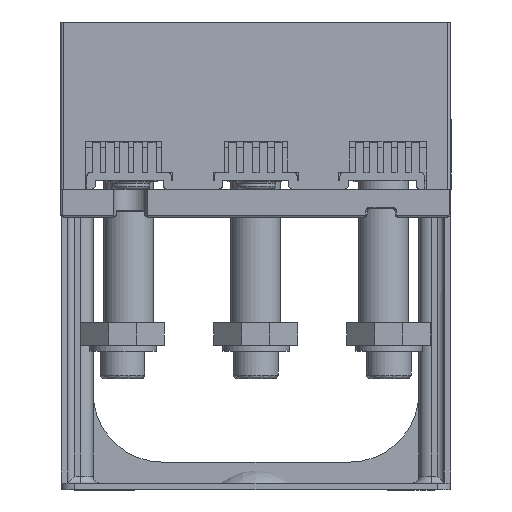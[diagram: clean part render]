
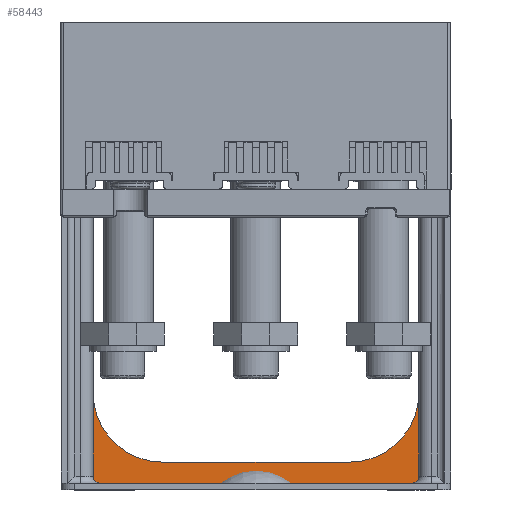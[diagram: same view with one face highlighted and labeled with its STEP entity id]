
A CAD part, front view. The second image highlights one B-rep face of the part: STEP entity #58443.
In plain terms, the highlighted planar face has unit normal (0, -1, 0).
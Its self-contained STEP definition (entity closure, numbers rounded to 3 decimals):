
#1909 = EDGE_CURVE ( 'NONE', #82494, #14823, #43096, .T. ) ;
#2968 = AXIS2_PLACEMENT_3D ( 'NONE', #26546, #27007, #122169 ) ;
#3411 = CARTESIAN_POINT ( 'NONE',  ( 22.522, 226.181, 323.748 ) ) ;
#4187 = CARTESIAN_POINT ( 'NONE',  ( 47.522, 226.181, 348.748 ) ) ;
#4484 = VERTEX_POINT ( 'NONE', #71699 ) ;
#4690 = ORIENTED_EDGE ( 'NONE', *, *, #114144, .F. ) ;
#5545 = EDGE_CURVE ( 'NONE', #36206, #137291, #107662, .T. ) ;
#6021 = ORIENTED_EDGE ( 'NONE', *, *, #53274, .F. ) ;
#6084 = FACE_OUTER_BOUND ( 'NONE', #54168, .T. ) ;
#7664 = VERTEX_POINT ( 'NONE', #130447 ) ;
#7715 = ORIENTED_EDGE ( 'NONE', *, *, #127202, .T. ) ;
#10980 = ORIENTED_EDGE ( 'NONE', *, *, #77903, .F. ) ;
#11683 = DIRECTION ( 'NONE',  ( 0., -1., 0. ) ) ;
#12442 = ORIENTED_EDGE ( 'NONE', *, *, #5545, .F. ) ;
#13349 = DIRECTION ( 'NONE',  ( 0., 0., 1. ) ) ;
#14520 = DIRECTION ( 'NONE',  ( 0., 0., 1. ) ) ;
#14811 = ORIENTED_EDGE ( 'NONE', *, *, #128020, .F. ) ;
#14823 = VERTEX_POINT ( 'NONE', #103293 ) ;
#14843 = VERTEX_POINT ( 'NONE', #28757 ) ;
#16103 = ORIENTED_EDGE ( 'NONE', *, *, #90730, .T. ) ;
#17538 = CARTESIAN_POINT ( 'NONE',  ( 56.522, 226.181, 318.748 ) ) ;
#18303 = CARTESIAN_POINT ( 'NONE',  ( -78.478, 226.181, 421.748 ) ) ;
#19679 = CARTESIAN_POINT ( 'NONE',  ( -69.478, 226.181, 416.748 ) ) ;
#19873 = CARTESIAN_POINT ( 'NONE',  ( -75.978, 226.181, 318.748 ) ) ;
#26546 = CARTESIAN_POINT ( 'NONE',  ( 54.022, 226.181, 318.748 ) ) ;
#27007 = DIRECTION ( 'NONE',  ( 0., 1., 0. ) ) ;
#27153 = LINE ( 'NONE', #77571, #28862 ) ;
#27326 = DIRECTION ( 'NONE',  ( -1., 0., 0. ) ) ;
#28375 = AXIS2_PLACEMENT_3D ( 'NONE', #107660, #43466, #97299 ) ;
#28757 = CARTESIAN_POINT ( 'NONE',  ( 47.522, 226.181, 416.748 ) ) ;
#28862 = VECTOR ( 'NONE', #13349, 1000. ) ;
#30763 = CARTESIAN_POINT ( 'NONE',  ( 52.522, 226.181, 421.748 ) ) ;
#31646 = DIRECTION ( 'NONE',  ( -1., 0., 0. ) ) ;
#33157 = LINE ( 'NONE', #34623, #107003 ) ;
#34623 = CARTESIAN_POINT ( 'NONE',  ( 47.522, 226.181, 421.748 ) ) ;
#34850 = EDGE_CURVE ( 'NONE', #81589, #55437, #137585, .T. ) ;
#35032 = CIRCLE ( 'NONE', #129359, 2.5 ) ;
#36206 = VERTEX_POINT ( 'NONE', #128625 ) ;
#37580 = DIRECTION ( 'NONE',  ( 0., 1., 0. ) ) ;
#41849 = VERTEX_POINT ( 'NONE', #4187 ) ;
#43096 = LINE ( 'NONE', #57719, #108468 ) ;
#43466 = DIRECTION ( 'NONE',  ( 0., 1., 0. ) ) ;
#43770 = CIRCLE ( 'NONE', #84360, 25. ) ;
#48222 = CARTESIAN_POINT ( 'NONE',  ( -80.978, 226.181, 421.748 ) ) ;
#49455 = DIRECTION ( 'NONE',  ( -1., 0., 0. ) ) ;
#50799 = DIRECTION ( 'NONE',  ( 0., -1., 0. ) ) ;
#52169 = ORIENTED_EDGE ( 'NONE', *, *, #130611, .F. ) ;
#53274 = EDGE_CURVE ( 'NONE', #137291, #7664, #110853, .T. ) ;
#54168 = EDGE_LOOP ( 'NONE', ( #14811, #4690, #52169, #135166, #97499, #136631, #114818, #54399, #7715, #10980, #6021, #12442, #16103, #87028 ) ) ;
#54399 = ORIENTED_EDGE ( 'NONE', *, *, #89508, .F. ) ;
#54442 = EDGE_CURVE ( 'NONE', #14843, #106897, #60361, .T. ) ;
#55416 = LINE ( 'NONE', #48222, #80578 ) ;
#55437 = VERTEX_POINT ( 'NONE', #18303 ) ;
#57719 = CARTESIAN_POINT ( 'NONE',  ( -69.478, 226.181, 421.748 ) ) ;
#58443 = ADVANCED_FACE ( 'NONE', ( #6084 ), #120890, .F. ) ;
#58764 = CARTESIAN_POINT ( 'NONE',  ( 52.522, 226.181, 416.748 ) ) ;
#60361 = CIRCLE ( 'NONE', #110708, 5. ) ;
#68641 = CARTESIAN_POINT ( 'NONE',  ( -80.978, 226.181, 421.748 ) ) ;
#70981 = CARTESIAN_POINT ( 'NONE',  ( -44.478, 226.181, 348.748 ) ) ;
#71699 = CARTESIAN_POINT ( 'NONE',  ( -75.978, 226.181, 316.248 ) ) ;
#71722 = CARTESIAN_POINT ( 'NONE',  ( -74.478, 226.181, 421.748 ) ) ;
#73382 = CARTESIAN_POINT ( 'NONE',  ( -80.978, 226.181, 316.248 ) ) ;
#77571 = CARTESIAN_POINT ( 'NONE',  ( -78.478, 226.181, 421.748 ) ) ;
#77869 = LINE ( 'NONE', #91933, #82946 ) ;
#77903 = EDGE_CURVE ( 'NONE', #7664, #4484, #89559, .T. ) ;
#78021 = DIRECTION ( 'NONE',  ( 0., 0., -1. ) ) ;
#78677 = DIRECTION ( 'NONE',  ( -1., 0., 0. ) ) ;
#80578 = VECTOR ( 'NONE', #78677, 1000. ) ;
#81589 = VERTEX_POINT ( 'NONE', #71722 ) ;
#82494 = VERTEX_POINT ( 'NONE', #19679 ) ;
#82732 = DIRECTION ( 'NONE',  ( 0., -1., 0. ) ) ;
#82946 = VECTOR ( 'NONE', #115760, 1000. ) ;
#84360 = AXIS2_PLACEMENT_3D ( 'NONE', #130696, #11683, #86644 ) ;
#84542 = DIRECTION ( 'NONE',  ( -1., 0., 0. ) ) ;
#85154 = EDGE_CURVE ( 'NONE', #81589, #82494, #136315, .T. ) ;
#86644 = DIRECTION ( 'NONE',  ( -1., 0., 0. ) ) ;
#87028 = ORIENTED_EDGE ( 'NONE', *, *, #54442, .F. ) ;
#89508 = EDGE_CURVE ( 'NONE', #105717, #55437, #27153, .T. ) ;
#89559 = LINE ( 'NONE', #73382, #123198 ) ;
#90121 = DIRECTION ( 'NONE',  ( 1., 0., 0. ) ) ;
#90730 = EDGE_CURVE ( 'NONE', #36206, #106897, #55416, .T. ) ;
#91933 = CARTESIAN_POINT ( 'NONE',  ( -10.978, 226.181, 323.748 ) ) ;
#94301 = VERTEX_POINT ( 'NONE', #3411 ) ;
#94702 = VERTEX_POINT ( 'NONE', #112008 ) ;
#97299 = DIRECTION ( 'NONE',  ( 1., 0., 0. ) ) ;
#97499 = ORIENTED_EDGE ( 'NONE', *, *, #1909, .F. ) ;
#101527 = CARTESIAN_POINT ( 'NONE',  ( -74.478, 226.181, 416.748 ) ) ;
#103293 = CARTESIAN_POINT ( 'NONE',  ( -69.478, 226.181, 348.748 ) ) ;
#104980 = AXIS2_PLACEMENT_3D ( 'NONE', #101527, #112380, #133905 ) ;
#105717 = VERTEX_POINT ( 'NONE', #122261 ) ;
#106897 = VERTEX_POINT ( 'NONE', #30763 ) ;
#107003 = VECTOR ( 'NONE', #14520, 1000. ) ;
#107660 = CARTESIAN_POINT ( 'NONE',  ( -10.978, 226.181, 421.748 ) ) ;
#107662 = LINE ( 'NONE', #120656, #134591 ) ;
#108468 = VECTOR ( 'NONE', #120037, 1000. ) ;
#110708 = AXIS2_PLACEMENT_3D ( 'NONE', #58764, #37580, #90121 ) ;
#110853 = CIRCLE ( 'NONE', #2968, 2.5 ) ;
#112008 = CARTESIAN_POINT ( 'NONE',  ( -44.478, 226.181, 323.748 ) ) ;
#112380 = DIRECTION ( 'NONE',  ( 0., 1., 0. ) ) ;
#114144 = EDGE_CURVE ( 'NONE', #94301, #41849, #43770, .T. ) ;
#114818 = ORIENTED_EDGE ( 'NONE', *, *, #34850, .T. ) ;
#115369 = AXIS2_PLACEMENT_3D ( 'NONE', #70981, #50799, #49455 ) ;
#115760 = DIRECTION ( 'NONE',  ( 1., 0., 0. ) ) ;
#119228 = VECTOR ( 'NONE', #27326, 1000. ) ;
#120037 = DIRECTION ( 'NONE',  ( 0., 0., -1. ) ) ;
#120656 = CARTESIAN_POINT ( 'NONE',  ( 56.522, 226.181, 421.748 ) ) ;
#120890 = PLANE ( 'NONE',  #28375 ) ;
#121503 = EDGE_CURVE ( 'NONE', #14823, #94702, #132706, .T. ) ;
#122169 = DIRECTION ( 'NONE',  ( -1., 0., 0. ) ) ;
#122261 = CARTESIAN_POINT ( 'NONE',  ( -78.478, 226.181, 318.748 ) ) ;
#123198 = VECTOR ( 'NONE', #31646, 1000. ) ;
#127202 = EDGE_CURVE ( 'NONE', #105717, #4484, #35032, .T. ) ;
#128020 = EDGE_CURVE ( 'NONE', #41849, #14843, #33157, .T. ) ;
#128625 = CARTESIAN_POINT ( 'NONE',  ( 56.522, 226.181, 421.748 ) ) ;
#129359 = AXIS2_PLACEMENT_3D ( 'NONE', #19873, #82732, #84542 ) ;
#130447 = CARTESIAN_POINT ( 'NONE',  ( 54.022, 226.181, 316.248 ) ) ;
#130611 = EDGE_CURVE ( 'NONE', #94702, #94301, #77869, .T. ) ;
#130696 = CARTESIAN_POINT ( 'NONE',  ( 22.522, 226.181, 348.748 ) ) ;
#132706 = CIRCLE ( 'NONE', #115369, 25. ) ;
#133905 = DIRECTION ( 'NONE',  ( 1., 0., 0. ) ) ;
#134591 = VECTOR ( 'NONE', #78021, 1000. ) ;
#135166 = ORIENTED_EDGE ( 'NONE', *, *, #121503, .F. ) ;
#136315 = CIRCLE ( 'NONE', #104980, 5. ) ;
#136631 = ORIENTED_EDGE ( 'NONE', *, *, #85154, .F. ) ;
#137291 = VERTEX_POINT ( 'NONE', #17538 ) ;
#137585 = LINE ( 'NONE', #68641, #119228 ) ;
